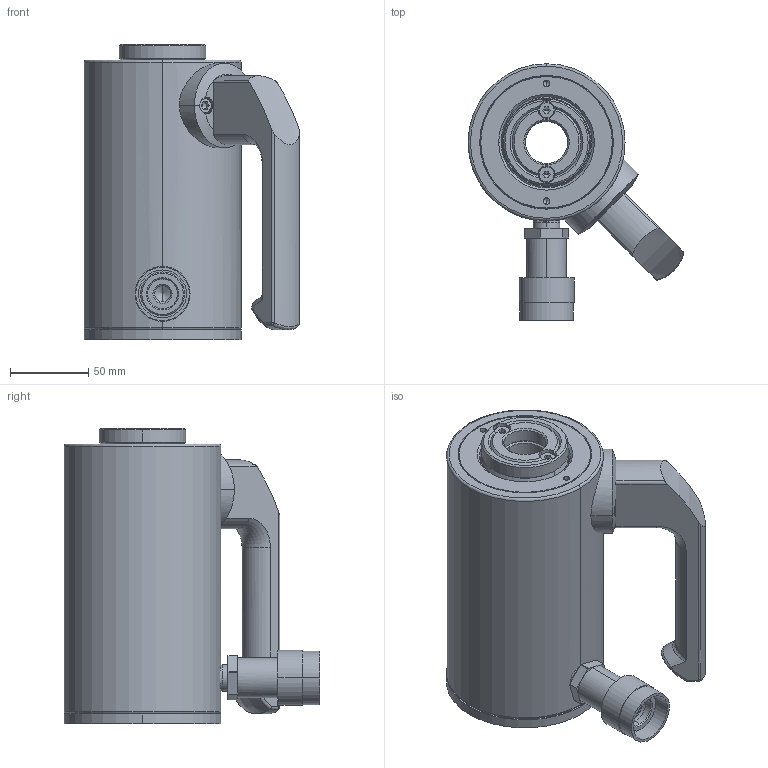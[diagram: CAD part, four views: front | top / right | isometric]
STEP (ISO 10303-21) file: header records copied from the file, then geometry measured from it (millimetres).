
FILE_DESCRIPTION((''),'2;1');
FILE_NAME('RACH202_SW0001','2019-03-25T',('mike.ward'),(''),'CREO PARAMETRIC BY PTC INC, 2017020','CREO PARAMETRIC BY PTC INC, 2017020','');
FILE_SCHEMA(('CONFIG_CONTROL_DESIGN'));
Length unit declared in the file: inch
Products named in the file (1): RACH202_SW0001
Bounding box: 137.53 x 163.12 x 188.2 mm (x, y, z)
Volume: 1279771.7 mm3; surface area: 233238.6 mm2
Topology: 1 solids, 1 shells, 581 faces, 1305 edges, 763 vertices
Faces by surface type: plane 179, cylinder 168, cone 111, torus 97, bspline 24, sphere 2
Entity records: 22301 total; most frequent: CARTESIAN_POINT 9255, DIRECTION 2933, ORIENTED_EDGE 2566, EDGE_CURVE 1283, AXIS2_PLACEMENT_3D 1217, VERTEX_POINT 763, CIRCLE 660, EDGE_LOOP 652
